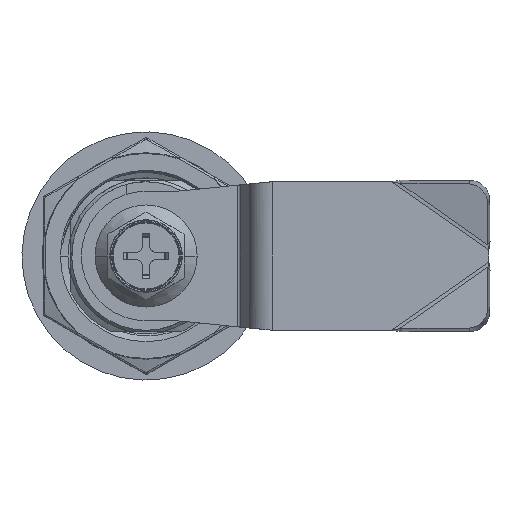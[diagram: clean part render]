
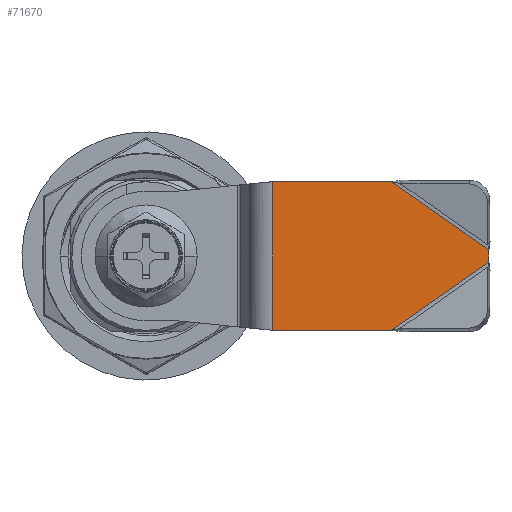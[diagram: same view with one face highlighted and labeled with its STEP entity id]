
A CAD part, front view. The second image highlights one B-rep face of the part: STEP entity #71670.
In plain terms, the highlighted planar face has unit normal (0, -1, 0).
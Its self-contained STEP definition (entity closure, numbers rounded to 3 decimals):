
#1097 = VECTOR ( 'NONE', #329764, 1000. ) ;
#3024 = VERTEX_POINT ( 'NONE', #368847 ) ;
#17532 = ORIENTED_EDGE ( 'NONE', *, *, #570248, .T. ) ;
#20680 = DIRECTION ( 'NONE',  ( -1., 0., 0. ) ) ;
#26219 = CARTESIAN_POINT ( 'NONE',  ( 40.806, -10., 3.76 ) ) ;
#29640 = DIRECTION ( 'NONE',  ( -0.819, 0., 0.574 ) ) ;
#48980 = EDGE_CURVE ( 'NONE', #415794, #384829, #460134, .T. ) ;
#71670 = ADVANCED_FACE ( 'NONE', ( #127833 ), #453961, .T. ) ;
#118003 = LINE ( 'NONE', #281069, #581115 ) ;
#127833 = FACE_OUTER_BOUND ( 'NONE', #417805, .T. ) ;
#160196 = VERTEX_POINT ( 'NONE', #685242 ) ;
#187150 = VERTEX_POINT ( 'NONE', #374943 ) ;
#198229 = DIRECTION ( 'NONE',  ( -1., 0., 0. ) ) ;
#210069 = EDGE_CURVE ( 'NONE', #187150, #620051, #118003, .T. ) ;
#235386 = CARTESIAN_POINT ( 'NONE',  ( 45., -10., 9.75 ) ) ;
#248403 = DIRECTION ( 'NONE',  ( 0., 0., -1. ) ) ;
#277261 = ORIENTED_EDGE ( 'NONE', *, *, #310916, .T. ) ;
#279754 = LINE ( 'NONE', #26219, #512642 ) ;
#281069 = CARTESIAN_POINT ( 'NONE',  ( 45., -10., 9.75 ) ) ;
#310916 = EDGE_CURVE ( 'NONE', #620051, #160196, #593619, .T. ) ;
#321816 = VECTOR ( 'NONE', #363761, 1000. ) ;
#329764 = DIRECTION ( 'NONE',  ( 0., 0., -1. ) ) ;
#350091 = LINE ( 'NONE', #370595, #321816 ) ;
#363761 = DIRECTION ( 'NONE',  ( -0.819, 0., -0.574 ) ) ;
#364629 = ORIENTED_EDGE ( 'NONE', *, *, #210069, .T. ) ;
#368847 = CARTESIAN_POINT ( 'NONE',  ( 32.252, -10., -9.75 ) ) ;
#370595 = CARTESIAN_POINT ( 'NONE',  ( 49.968, -10., 2.655 ) ) ;
#374943 = CARTESIAN_POINT ( 'NONE',  ( 32.252, -10., 9.75 ) ) ;
#375268 = ORIENTED_EDGE ( 'NONE', *, *, #490511, .F. ) ;
#384829 = VERTEX_POINT ( 'NONE', #557026 ) ;
#398471 = DIRECTION ( 'NONE',  ( 1., 0., 0. ) ) ;
#415794 = VERTEX_POINT ( 'NONE', #656338 ) ;
#417805 = EDGE_LOOP ( 'NONE', ( #451693, #17532, #364629, #277261, #375268, #594162 ) ) ;
#451693 = ORIENTED_EDGE ( 'NONE', *, *, #48980, .F. ) ;
#453961 = PLANE ( 'NONE',  #677493 ) ;
#460134 = LINE ( 'NONE', #578046, #544107 ) ;
#462044 = CARTESIAN_POINT ( 'NONE',  ( 45., -10., -9.75 ) ) ;
#490511 = EDGE_CURVE ( 'NONE', #3024, #160196, #514126, .T. ) ;
#490616 = CARTESIAN_POINT ( 'NONE',  ( 16.621, -10., 9.75 ) ) ;
#495316 = EDGE_CURVE ( 'NONE', #384829, #3024, #350091, .T. ) ;
#512642 = VECTOR ( 'NONE', #29640, 1000. ) ;
#514126 = LINE ( 'NONE', #462044, #543298 ) ;
#543298 = VECTOR ( 'NONE', #198229, 1000. ) ;
#544107 = VECTOR ( 'NONE', #248403, 1000. ) ;
#551299 = DIRECTION ( 'NONE',  ( 0., -1., 0. ) ) ;
#557026 = CARTESIAN_POINT ( 'NONE',  ( 45., -10., -0.824 ) ) ;
#570248 = EDGE_CURVE ( 'NONE', #415794, #187150, #279754, .T. ) ;
#578046 = CARTESIAN_POINT ( 'NONE',  ( 45., -10., 9.75 ) ) ;
#581115 = VECTOR ( 'NONE', #20680, 1000. ) ;
#593619 = LINE ( 'NONE', #597029, #1097 ) ;
#594162 = ORIENTED_EDGE ( 'NONE', *, *, #495316, .F. ) ;
#597029 = CARTESIAN_POINT ( 'NONE',  ( 16.621, -10., 9.75 ) ) ;
#620051 = VERTEX_POINT ( 'NONE', #490616 ) ;
#656338 = CARTESIAN_POINT ( 'NONE',  ( 45., -10., 0.824 ) ) ;
#677493 = AXIS2_PLACEMENT_3D ( 'NONE', #235386, #551299, #398471 ) ;
#685242 = CARTESIAN_POINT ( 'NONE',  ( 16.621, -10., -9.75 ) ) ;
